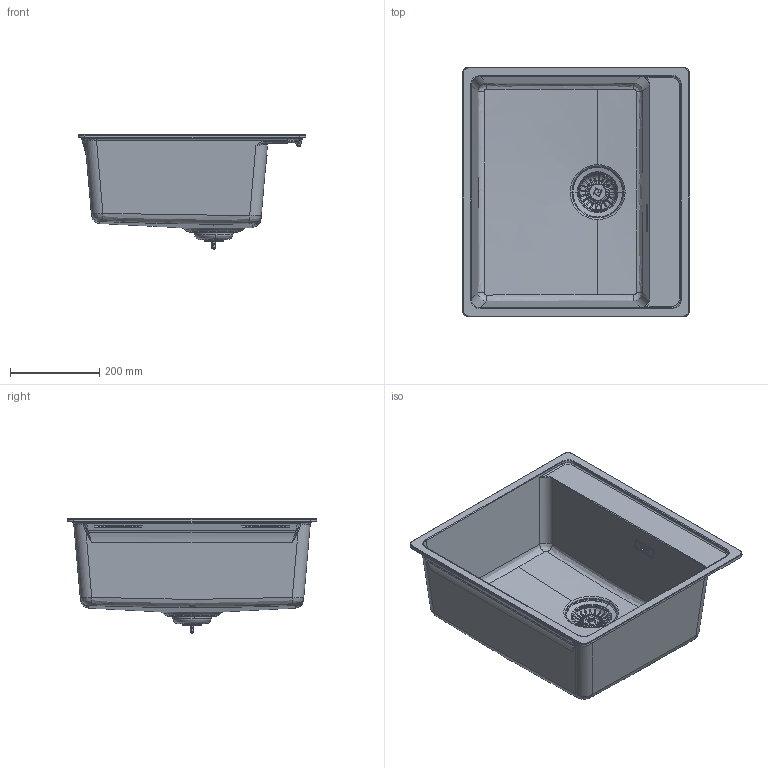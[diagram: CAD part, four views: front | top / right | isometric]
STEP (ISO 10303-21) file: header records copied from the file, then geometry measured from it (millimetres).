
FILE_DESCRIPTION(/* description */ (''),/* implementation_level */ '2;1');
FILE_NAME(/* name */ '3D001_Sinks_Maris_MRG-610-52-TL',/* time_stamp */ '2024-03-18T11:42:50+01:00',/* author */ (''),/* organization */ (''),/* preprocessor_version */ 'ST-DEVELOPER v19.2',/* originating_system */ 'Rhino 8.4',/* authorisation */ '');
FILE_SCHEMA (('CONFIG_CONTROL_DESIGN'));
Length unit declared in the file: millimetre
Products named in the file (13): Document; OVERFLOW; 20117578_IAM_000; 20117565_IPT_000; 20116285_IPT_000; 20117574_IPT_000; 20117576_IPT_000; 20116187_IPT_000; 20117570_IPT_000; 20117567_IPT_000; 20117572_IPT_000; 20197205_iam_000; 20197190_ipt_000
Bounding box: 510 x 560 x 256 mm (x, y, z)
Volume: 4309963.6 mm3; surface area: 1227871.1 mm2
Topology: 11 solids, 16 shells, 1590 faces, 4326 edges, 2758 vertices
Faces by surface type: plane 598, bspline 549, cylinder 443
Entity records: 74650 total; most frequent: CARTESIAN_POINT 39589, ORIENTED_EDGE 8467, EDGE_CURVE 4304, DIRECTION 4017, VERTEX_POINT 2758, B_SPLINE_CURVE_WITH_KNOTS 2744, AXIS2_PLACEMENT_3D 2529, EDGE_LOOP 1695
